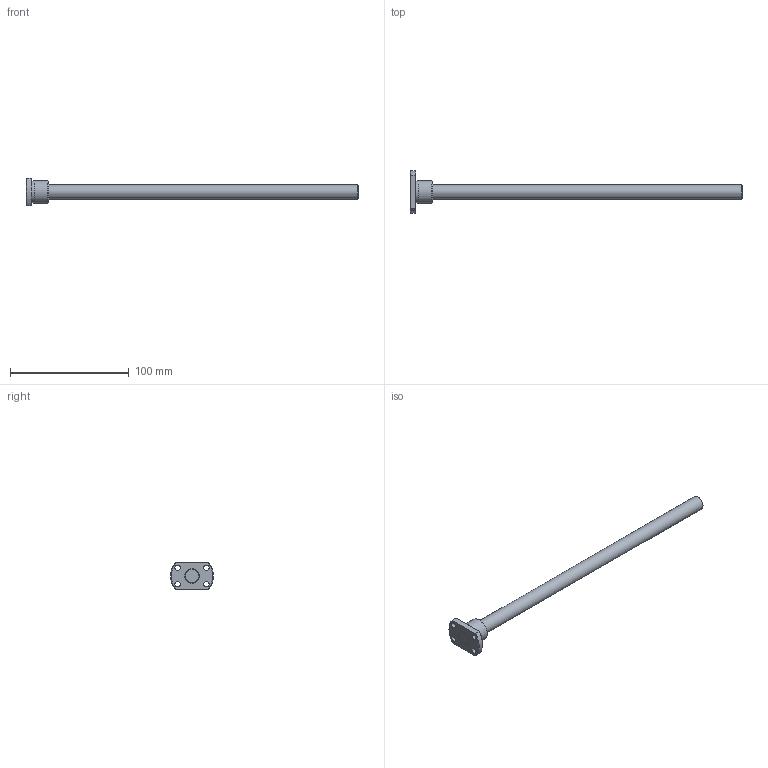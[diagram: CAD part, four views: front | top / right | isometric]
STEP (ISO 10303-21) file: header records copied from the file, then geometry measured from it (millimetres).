
FILE_DESCRIPTION( ( 'STEP AP203' ), '1' );
FILE_NAME( 'e:/temp/worker_97/temp/exporttempdir_3888_1650_o8xcm/format_0/PSR1202K-280R280C5(0).stp', '2021-10-19T08:16:41', ( 'License CC BY-ND 4.0' ), ( 'CADENAS' ), ' ', 'PARTsolutions', ' ' );
FILE_SCHEMA( ( 'CONFIG_CONTROL_DESIGN' ) );
Length unit declared in the file: millimetre
Products named in the file (3): PSR1202K-280R280C5(0); _PSR1202K_shaft; _PSR1202K_nut
Assembly tree (2 placements, depth 2):
  PSR1202K-280R280C5(0)
    _PSR1202K_shaft
    _PSR1202K_nut
Bounding box: 280 x 36 x 23 mm (x, y, z)
Volume: 36955 mm3; surface area: 14274.9 mm2
Topology: 2 solids, 2 shells, 25 faces, 54 edges, 35 vertices
Faces by surface type: cylinder 10, plane 8, cone 7
Full cylindrical faces by diameter (mm): 4.5 x4, 12 x2, 18.6 x1, 19 x1
Entity records: 772 total; most frequent: CARTESIAN_POINT 130, DIRECTION 118, ORIENTED_EDGE 86, AXIS2_PLACEMENT_3D 55, EDGE_LOOP 48, EDGE_CURVE 43, VERTEX_POINT 35, FACE_OUTER_BOUND 33
